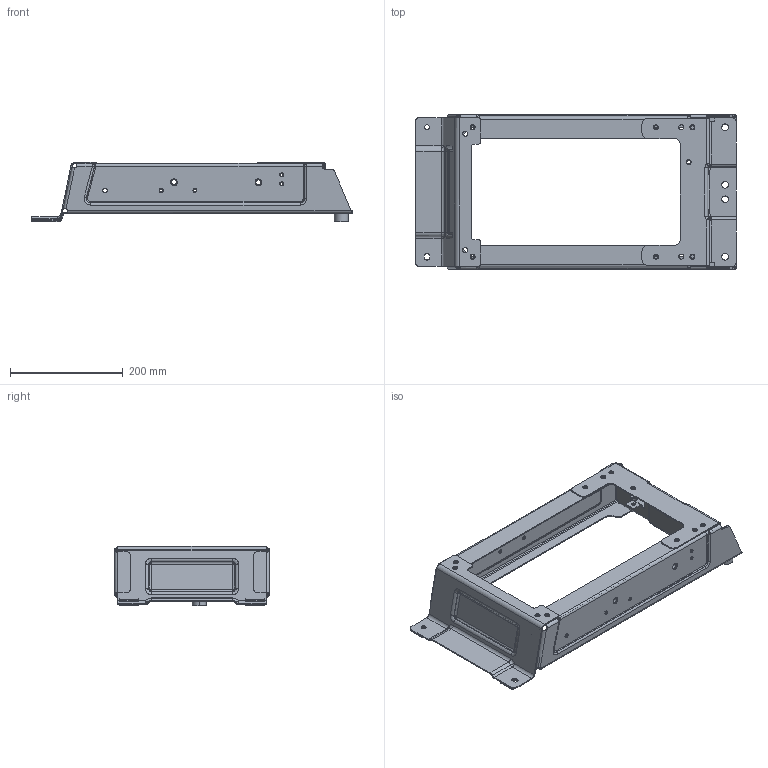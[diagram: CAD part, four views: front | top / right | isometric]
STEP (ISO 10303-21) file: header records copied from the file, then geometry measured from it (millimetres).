
FILE_DESCRIPTION(('CATIA V5 STEP Exchange'),'2;1');
FILE_NAME('F:\福田A6\1-数据\6-冻结数据\第九批\设变\宽车底部支架设变ECR0011068-20241213\SHT0016014-宽车主驾驶底部支架焊接总成\更改后数据-SHT0016014\SHT0016014-宽车主驾驶底部支架焊接总成\SHT0016014-20211219.stp','2024-12-19T08:09:56+00:00',('none'),('none'),'CATIA Version 5 Release 20 GA (IN-10)','CATIA V5 STEP AP203','none');
FILE_SCHEMA(('CONFIG_CONTROL_DESIGN'));
Products named in the file (1): SHT0016014-20241219
Bounding box: 569.84 x 275 x 105.5 mm (x, y, z)
Volume: 529595.2 mm3; surface area: 533012.1 mm2
Topology: 20 solids, 20 shells, 1279 faces, 3488 edges, 2221 vertices
Faces by surface type: cylinder 483, plane 349, bspline 178, cone 156, torus 57, sphere 48, extrusion 6, revolution 2
Entity records: 45490 total; most frequent: CARTESIAN_POINT 16437, ORIENTED_EDGE 6888, DIRECTION 4323, EDGE_CURVE 3444, VERTEX_POINT 2221, AXIS2_PLACEMENT_3D 2077, EDGE_LOOP 1427, VECTOR 1335
